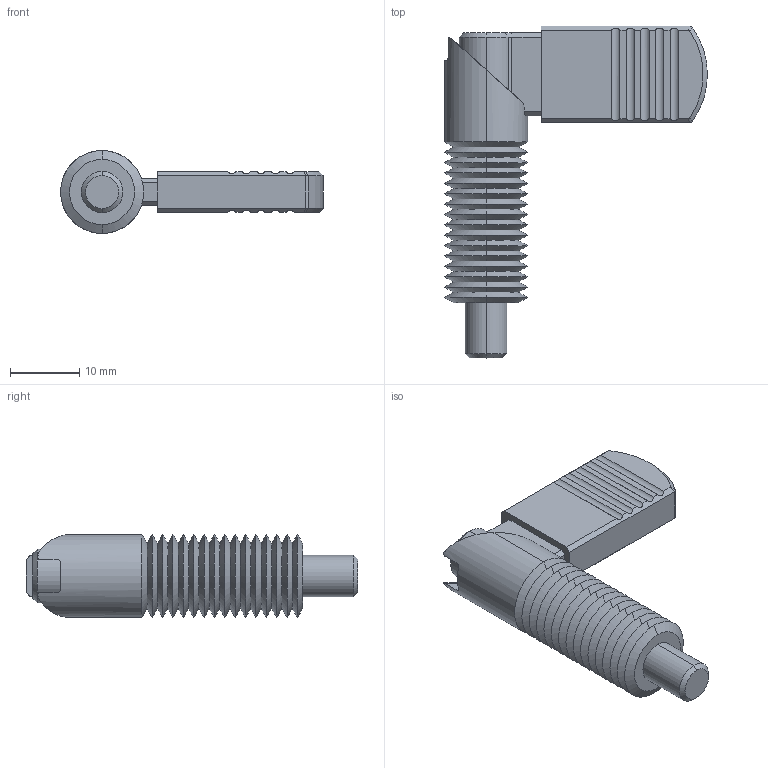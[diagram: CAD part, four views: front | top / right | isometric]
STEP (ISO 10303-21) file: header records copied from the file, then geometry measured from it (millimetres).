
FILE_DESCRIPTION (( 'STEP AP203' ), '1' );
FILE_NAME ('32501.W0364.step', '2016-02-10T17:22:04', ( 'User' ), ( '' ), 'SwSTEP 2.0', 'SolidWorks 2009', '' );
FILE_SCHEMA (( 'CONFIG_CONTROL_DESIGN' ));
Length unit declared in the file: millimetre
Products named in the file (4): Part1_32501.W0364; Part2_32501.W0364; 32501.W0364; Part3_32501.W0364
Assembly tree (3 placements, depth 2):
  32501.W0364
    Part3_32501.W0364
    Part1_32501.W0364
    Part2_32501.W0364
Bounding box: 38 x 48 x 12 mm (x, y, z)
Volume: 4360.2 mm3; surface area: 6202.6 mm2
Topology: 3 solids, 3 shells, 192 faces, 457 edges, 275 vertices
Faces by surface type: cone 79, cylinder 55, plane 54, bspline 4
Entity records: 6004 total; most frequent: CARTESIAN_POINT 1336, ORIENTED_EDGE 914, DIRECTION 876, EDGE_CURVE 457, AXIS2_PLACEMENT_3D 315, VERTEX_POINT 275, VECTOR 246, LINE 246
